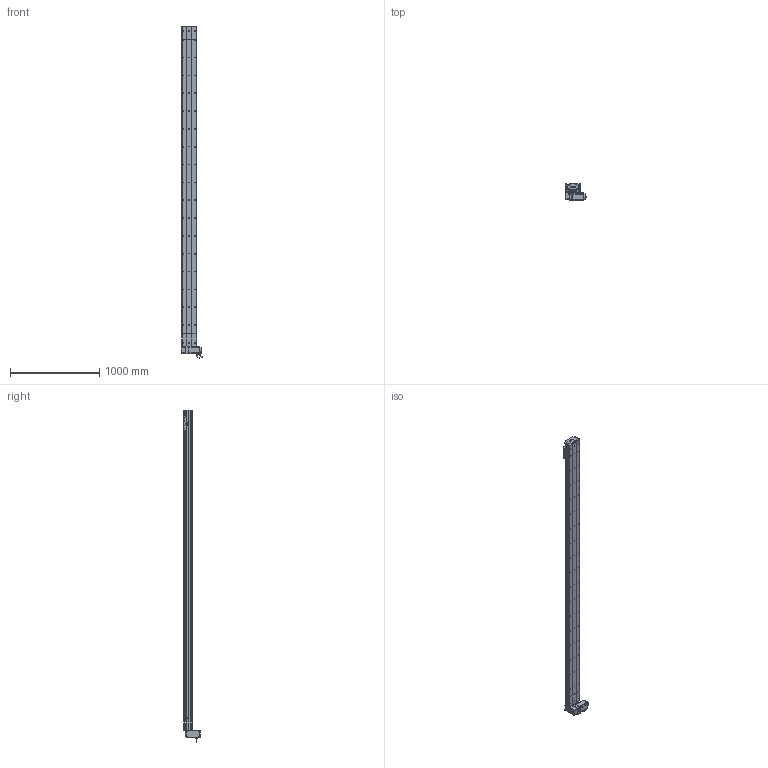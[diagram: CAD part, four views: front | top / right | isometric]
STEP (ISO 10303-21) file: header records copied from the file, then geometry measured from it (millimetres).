
FILE_DESCRIPTION (( 'STEP AP214' ), '1' );
FILE_NAME ('D17 TBH RU S3300.STEP', '2010-06-30T10:31:55', ( 'Christophe Gaillard' ), ( 'SGA' ), 'SwSTEP 2.0', 'SolidWorks 2010', '' );
FILE_SCHEMA (( 'AUTOMOTIVE_DESIGN' ));
Length unit declared in the file: millimetre
Products named in the file (40): couroie head D17_Default; poulie head_Default; Moteur motionking 90BLDC125A-640; corpl head D17 _Default; Vis M5 L16-2_Default; vis M5 L12_Default; guide D17; vis M5 L70_Default; codeur 90BLDC125-640; cache D17_Default; chariot D17S_Default; plaque de  bout head D17B RU_Default; Arbre+rail head D17B; couvercle D17B head_Default; D17 TBH RU S3300; course 3300 D17B_Default; Couroie tail D17B_Default; Rail D17B; plaque de  bout tail D17B_Default; couvercle D17B course L3300_Default; vis M5 L16_Default; Head RU D17B_Default; tete d''axe poulie D17B; Conecteur2_Default; Tail D17B+100_Default; corp tail D17B+100_Default; Conecteur_Default; Chariot D17; vis M5 L25_Default; avant 90BLDC125A-640; Renvoi RU_Default; corps 90BLDC125A-640; Plaque racord D17_Default; vis M5 L8 90°_Default; cache arbre D17_Default; poulie tail_Default; Couroie+ rail D17 Course 3300 ; corp D17B 3300_Default; vis M5 L5_Default; couvercle D17B_Default
Assembly tree (70 placements, depth 4):
  D17 TBH RU S3300
    Tail D17B+100_Default
      vis M5 L12_Default  x4
      vis M5 L25_Default  x2
      corp tail D17B+100_Default
      Rail D17B
      Couroie tail D17B_Default
      plaque de  bout tail D17B_Default
      couvercle D17B_Default
      poulie tail_Default
      vis M5 L8 90°_Default  x2
      tete d''axe poulie D17B
    course 3300 D17B_Default
      corp D17B 3300_Default
      couvercle D17B course L3300_Default
      Couroie+ rail D17 Course 3300 
    chariot D17S_Default
      guide D17  x2
      vis M5 L12_Default  x4
      Chariot D17
    Head RU D17B_Default
      cache D17_Default  x2
      cache arbre D17_Default
      Arbre+rail head D17B
      vis M5 L12_Default  x8
      Vis M5 L16-2_Default  x4
      vis M5 L25_Default  x2
      couroie head D17_Default
      vis M5 L5_Default  x4
      poulie head_Default
      couvercle D17B head_Default
      plaque de  bout head D17B RU_Default
      Moteur motionking 90BLDC125A-640
        Conecteur_Default
        Conecteur2_Default
        avant 90BLDC125A-640
        corps 90BLDC125A-640
        codeur 90BLDC125-640
      corpl head D17 _Default
      Renvoi RU_Default
      vis M5 L70_Default  x4
      vis M5 L16_Default  x2
      Plaque racord D17_Default
Bounding box: 245.2 x 188.65 x 3723.95 mm (x, y, z)
Volume: 21045179.7 mm3; surface area: 6151925.6 mm2
Topology: 94 solids, 94 shells, 2801 faces, 7191 edges, 4626 vertices
Faces by surface type: plane 1611, cylinder 877, bspline 136, cone 88, torus 85, sphere 4
Entity records: 89002 total; most frequent: CARTESIAN_POINT 25995, ORIENTED_EDGE 11154, DIRECTION 10550, EDGE_CURVE 5577, VERTEX_POINT 3650, LINE 3600, VECTOR 3600, AXIS2_PLACEMENT_3D 3475
